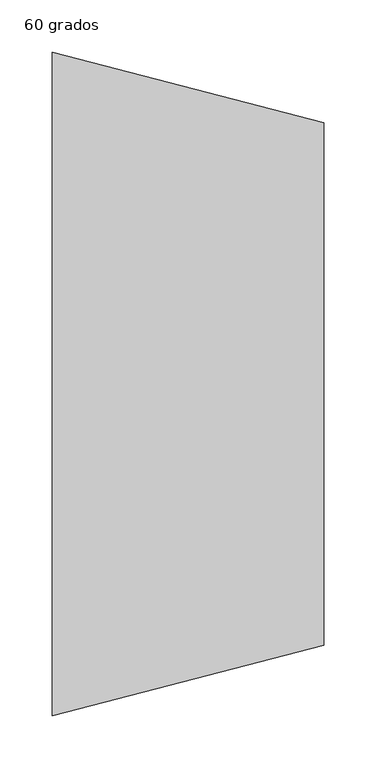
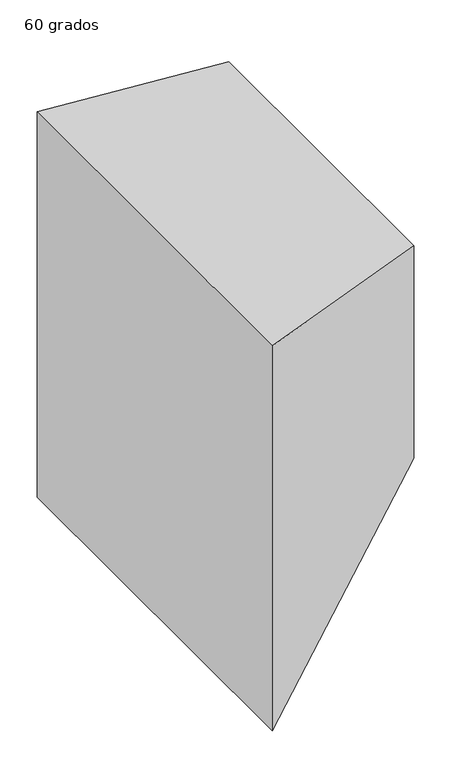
"""IFC4 building model written with IfcOpenShell, lengths in millimetres: duct fitting geometry, M_Transición rectangular - Ángulo : 60 grados."""

from ifc_helpers import new_model, si_unit, origin, place, context, project, spatial, faceted_brep, source, transform, mapped, element, save


def duct_fitting_60_grados_c35f839f(model_context):
    return source(origin(), model_context, "Body", "Brep", [
        faceted_brep([(259.8076211, -250.0, 349.998052), (259.8076211, -250.0, -0.001948), (259.8076211, 250.0, -0.001948), (259.8076211, 250.0, 349.998052), (0.0, -317.5, 317.5), (0.0, 317.5, 317.5), (0.0, 317.5, -317.5), (0.0, -317.5, -317.5)], [[[0, 1, 2, 3]], [[4, 5, 6, 7]], [[4, 7, 1, 0]], [[7, 6, 2, 1]], [[6, 5, 3, 2]], [[5, 4, 0, 3]]]),
    ])


if __name__ == "__main__":
    model = new_model("IFC4")
    model_context = context("Model", 3, world=origin())
    ifc_project = project(units=[si_unit("LENGTHUNIT", "METRE", prefix="MILLI")], contexts=[model_context])
    site = spatial("IfcSite", under=ifc_project)
    building = spatial("IfcBuilding", under=site)
    placement = place(None, origin())
    duct_fitting_60_grados_shape = duct_fitting_60_grados_c35f839f(model_context)
    element("IfcDuctFitting", 1, ObjectType="M_Transición rectangular - Ángulo : 60 grados", at=placement, inside=building, context=model_context, shape_type="MappedRepresentation", body=[
        mapped(duct_fitting_60_grados_shape, transform((0.0, 0.0, 0.0), x_axis=(1.0, 0.0, 0.0), y_axis=(0.0, 1.0, 0.0), z_axis=(0.0, 0.0, 1.0))),
    ])
    save(model, "model.ifc")
